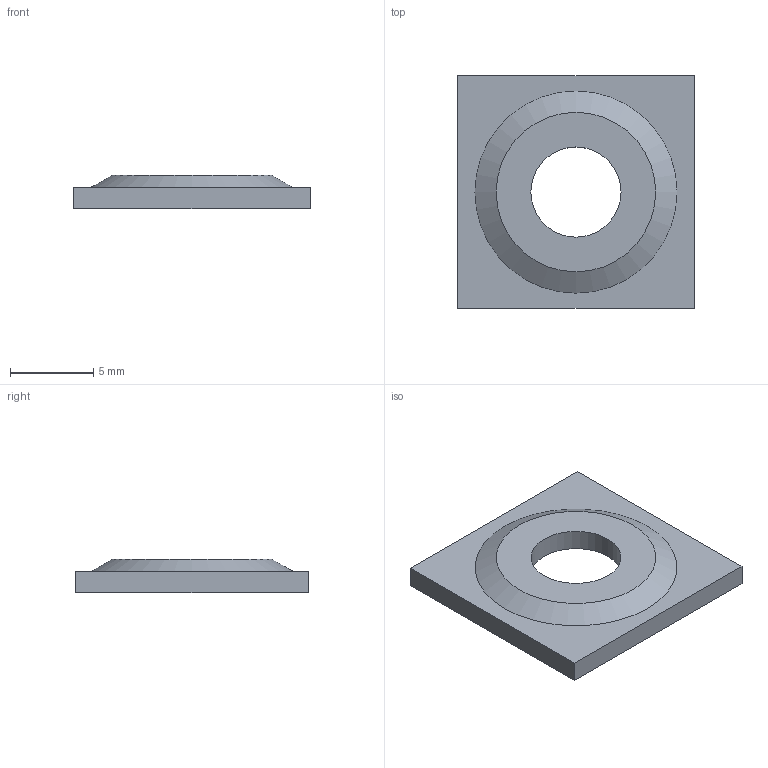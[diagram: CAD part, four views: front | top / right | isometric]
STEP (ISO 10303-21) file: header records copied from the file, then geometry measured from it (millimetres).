
FILE_DESCRIPTION((''),'1');
FILE_NAME('C:/Users/ericfrey/Desktop/407-6162-00 DIMPLE REV 01.stp', '2018-11-19T20:21:36',(''), (''), 'KCM Version 1.1.2648.0', 'KeyCreator', '');
FILE_SCHEMA(('AUTOMOTIVE_DESIGN'));
Length unit declared in the file: inch
Bounding box: 14.22 x 13.96 x 2.01 mm (x, y, z)
Volume: 231.1 mm3; surface area: 457.1 mm2
Topology: 1 solids, 1 shells, 11 faces, 21 edges, 14 vertices
Faces by surface type: plane 8, cone 2, cylinder 1
Full cylindrical faces by diameter (mm): 5.41 x1
Entity records: 382 total; most frequent: DIRECTION 51, CARTESIAN_POINT 47, ORIENTED_EDGE 42, EDGE_CURVE 21, AXIS2_PLACEMENT_3D 18, VECTOR 15, LINE 15, EDGE_LOOP 15
